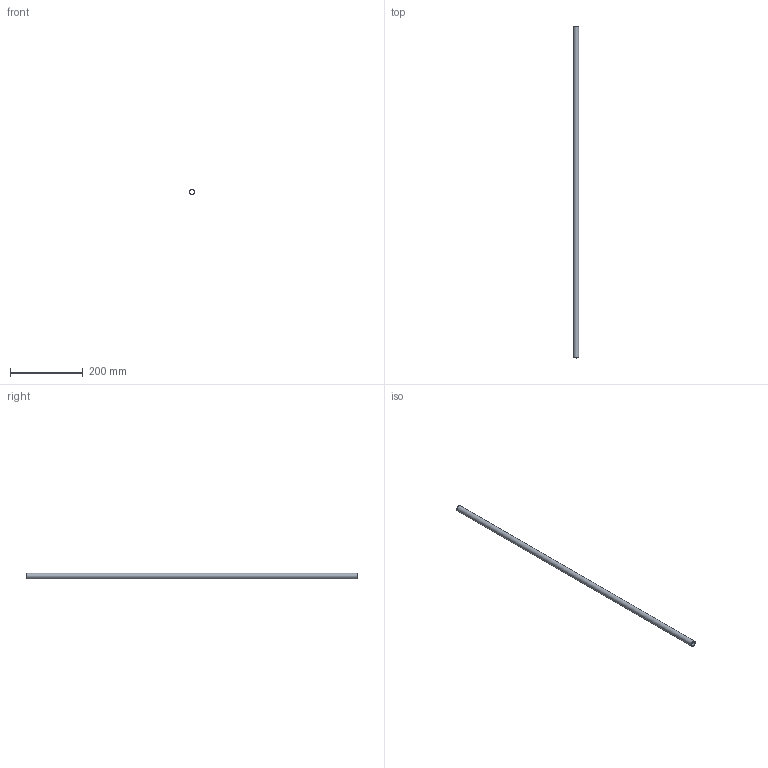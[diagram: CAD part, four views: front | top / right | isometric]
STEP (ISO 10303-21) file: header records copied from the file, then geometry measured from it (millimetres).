
FILE_DESCRIPTION(/* description */ (''),/* implementation_level */ '2;1');
FILE_NAME(/* name */ 'C:/Users/drich/Desktop/625T-36 v1.step',/* time_stamp */ '2019-12-27T17:34:39-06:00',/* author */ (''),/* organization */ (''),/* preprocessor_version */ 'ST-DEVELOPER v18',/* originating_system */ 'Autodesk Translation Framework v8.12.0.6',/* authorisation */ '');
FILE_SCHEMA (('AUTOMOTIVE_DESIGN { 1 0 10303 214 3 1 1 }'));
Length unit declared in the file: inch
Products named in the file (1): 625T-36
Bounding box: 15.73 x 914.4 x 15.73 mm (x, y, z)
Volume: 64152.3 mm3; surface area: 81405.1 mm2
Topology: 1 solids, 1 shells, 6 faces, 14 edges, 10 vertices
Faces by surface type: cone 2, cylinder 2, plane 2
Full cylindrical faces by diameter (mm): 12.573 x1, 15.73 x1
Entity records: 230 total; most frequent: DIRECTION 38, CARTESIAN_POINT 31, ORIENTED_EDGE 28, AXIS2_PLACEMENT_3D 17, EDGE_CURVE 14, CIRCLE 10, VERTEX_POINT 10, EDGE_LOOP 8
